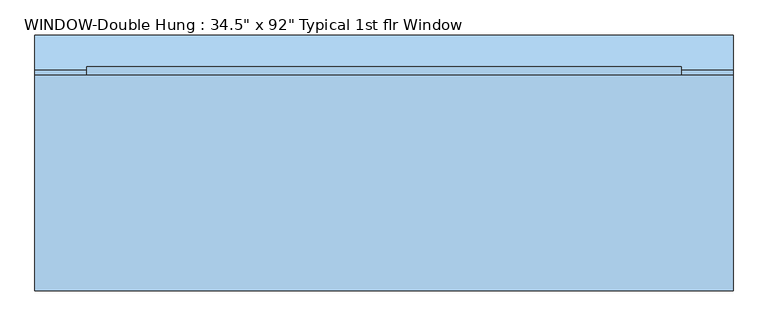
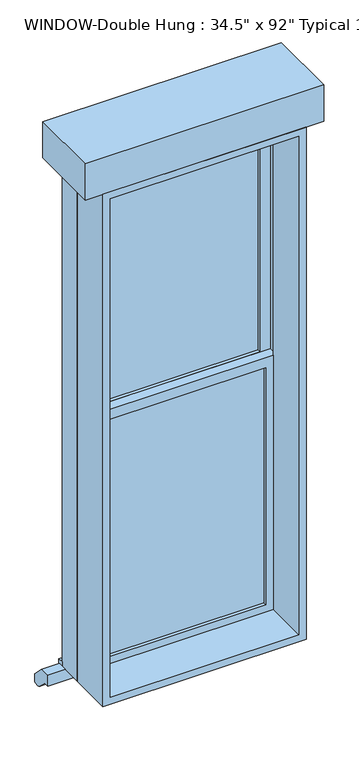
"""IFC4 building model written with IfcOpenShell, lengths in millimetres: window geometry."""

from ifc_helpers import new_model, si_unit, point, frame, frame_2d, origin, place, context, project, spatial, polyline, circle_curve, trimmed, segment, composite_curve, outline, extrude, source, transform, mapped, element, save


def window_bb48f2e8(model_context):
    return source(origin(), model_context, "Body", "SweptSolid", [
        extrude(outline(polyline([(-374.65, 66.675), (374.65, 66.675), (374.65, 53.975), (-374.65, 53.975), (-374.65, 66.675)])), frame((0.0, 0.0, 673.1), z_axis=(0.0, 0.0, 1.0), x_axis=(1.0, 0.0, 0.0)), (0.0, 0.0, 1.0), 1082.675),
        extrude(outline(polyline([(1800.225, -419.1), (628.65, -419.1), (628.65, 419.1), (1800.225, 419.1), (1800.225, -419.1)]), holes=[polyline([(1755.775, -374.65), (1755.775, 374.65), (673.1, 374.65), (673.1, -374.65), (1755.775, -374.65)])]), frame((0.0, 38.1, 0.0), z_axis=(0.0, 1.0, 0.0), x_axis=(0.0, 0.0, 1.0)), (0.0, 0.0, 1.0), 44.45),
        extrude(outline(polyline([(-438.15, 177.8), (438.15, 177.8), (438.15, 152.4), (-438.15, 152.4), (-438.15, 177.8)])), frame((0.0, 0.0, 609.6), z_axis=(0.0, 0.0, 1.0), x_axis=(1.0, 0.0, 0.0)), (0.0, 0.0, 1.0), 19.05),
        extrude(outline(polyline([(374.65, 98.425), (-374.65, 98.425), (-374.65, 111.125), (374.65, 111.125), (374.65, 98.425)])), frame((0.0, 0.0, 1800.225), z_axis=(0.0, 0.0, 1.0), x_axis=(1.0, 0.0, 0.0)), (0.0, 0.0, 1.0), 1082.675),
        extrude(outline(polyline([(2927.35, -419.1), (1755.775, -419.1), (1755.775, 419.1), (2927.35, 419.1), (2927.35, -419.1)]), holes=[polyline([(2882.9, -374.65), (2882.9, 374.65), (1800.225, 374.65), (1800.225, -374.65), (2882.9, -374.65)])]), frame((0.0, 82.55, 0.0), z_axis=(0.0, 1.0, 0.0), x_axis=(0.0, 0.0, 1.0)), (0.0, 0.0, 1.0), 44.45),
        extrude(outline(polyline([(2946.4, -438.15), (609.6, -438.15), (609.6, 438.15), (2946.4, 438.15), (2946.4, -438.15)]), holes=[polyline([(2914.65, -406.4), (2914.65, 406.4), (641.35, 406.4), (641.35, -406.4), (2914.65, -406.4)])]), frame((0.0, -152.4, 0.0), z_axis=(0.0, 1.0, 0.0), x_axis=(0.0, 0.0, 1.0)), (0.0, 0.0, 1.0), 190.5),
        extrude(outline(polyline([(2946.4, 438.15), (2946.4, -438.15), (609.6, -438.15), (609.6, 438.15), (2946.4, 438.15)]), holes=[polyline([(2927.35, 419.1), (628.65, 419.1), (628.65, -419.1), (2927.35, -419.1), (2927.35, 419.1)])]), frame((0.0, 38.1, 0.0), z_axis=(0.0, 1.0, 0.0), x_axis=(0.0, 0.0, 1.0)), (0.0, 0.0, 1.0), 114.3),
        extrude(outline(composite_curve([segment(polyline([(127.0, 609.6), (173.442049, 609.6), (224.242049, 558.8), (224.242049, 522.8789755)]), True, "CONTINUOUS"), segment(trimmed(circle_curve(frame_2d((206.2815367, 540.8394878)), 25.4), [point((224.242049, 522.8789755))], [point((188.3210245, 522.8789755))], False, "CARTESIAN"), True, "CONTINUOUS"), segment(polyline([(188.3210245, 522.8789755), (152.4, 558.8), (127.0, 558.8), (127.0, 609.6)]), True, "CONTINUOUS")], self_intersect=False)), frame((-514.35, 0.0, 0.0), z_axis=(1.0, 0.0, 0.0), x_axis=(0.0, 1.0, 0.0)), (0.0, 0.0, 1.0), 1028.7),
        extrude(outline(polyline([(514.35, 165.1), (514.35, -152.4), (-514.35, -152.4), (-514.35, 165.1), (514.35, 165.1)])), frame((0.0, 0.0, 2946.4), z_axis=(0.0, 0.0, 1.0), x_axis=(1.0, 0.0, 0.0)), (0.0, 0.0, 1.0), 165.1),
    ])


if __name__ == "__main__":
    model = new_model("IFC4")
    model_context = context("Model", 3, world=origin())
    ifc_project = project(units=[si_unit("LENGTHUNIT", "METRE", prefix="MILLI")], contexts=[model_context])
    site = spatial("IfcSite", under=ifc_project)
    building = spatial("IfcBuilding", under=site)
    placement = place(None, origin())
    window_shape = window_bb48f2e8(model_context)
    element("IfcWindow", 1, ObjectType="WINDOW-Double Hung : 34.5\" x 92\" Typical 1st flr Window", at=placement, inside=building, context=model_context, shape_type="MappedRepresentation", body=[
        mapped(window_shape, transform((0.0, 0.0, 0.0), x_axis=(1.0, 0.0, 0.0), y_axis=(0.0, 1.0, 0.0), z_axis=(0.0, 0.0, 1.0))),
    ])
    save(model, "model.ifc")
